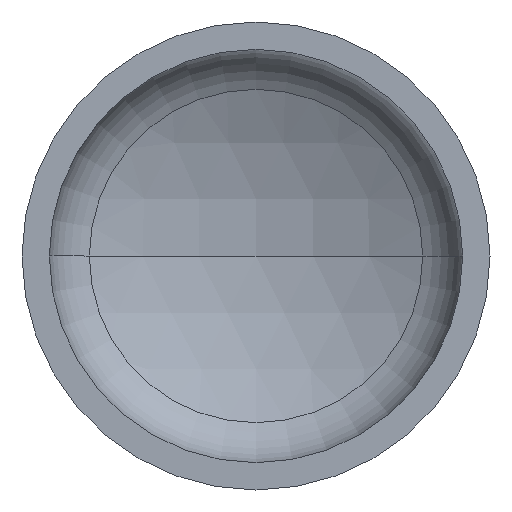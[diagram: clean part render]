
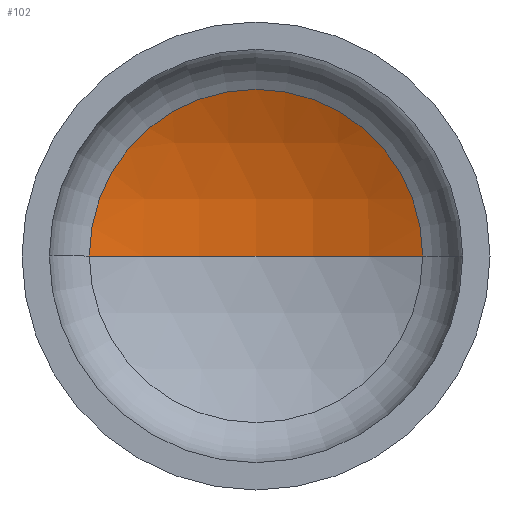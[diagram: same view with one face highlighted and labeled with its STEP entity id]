
A CAD part, front view. The second image highlights one B-rep face of the part: STEP entity #102.
In plain terms, the highlighted spherical face has radius 1040 mm.
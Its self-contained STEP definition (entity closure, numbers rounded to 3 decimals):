
#9 = EDGE_LOOP ( 'NONE', ( #23, #124, #97 ) ) ;
#23 = ORIENTED_EDGE ( 'NONE', *, *, #216, .F. ) ;
#26 = DIRECTION ( 'NONE',  ( 1., 0., 0. ) ) ;
#67 = VERTEX_POINT ( 'NONE', #247 ) ;
#92 = VERTEX_POINT ( 'NONE', #295 ) ;
#97 = ORIENTED_EDGE ( 'NONE', *, *, #211, .T. ) ;
#102 = ADVANCED_FACE ( 'NONE', ( #265 ), #380, .F. ) ;
#106 = VERTEX_POINT ( 'NONE', #336 ) ;
#124 = ORIENTED_EDGE ( 'NONE', *, *, #213, .T. ) ;
#126 = AXIS2_PLACEMENT_3D ( 'NONE', #214, #180, #201 ) ;
#131 = AXIS2_PLACEMENT_3D ( 'NONE', #385, #246, #181 ) ;
#138 = AXIS2_PLACEMENT_3D ( 'NONE', #144, #287, #26 ) ;
#144 = CARTESIAN_POINT ( 'NONE',  ( 0., 299.082, 0. ) ) ;
#156 = CIRCLE ( 'NONE', #138, 463.048 ) ;
#178 = AXIS2_PLACEMENT_3D ( 'NONE', #238, #240, #340 ) ;
#180 = DIRECTION ( 'NONE',  ( 0., 0., 1. ) ) ;
#181 = DIRECTION ( 'NONE',  ( -1., 0., 0. ) ) ;
#201 = DIRECTION ( 'NONE',  ( 1., 0., 0. ) ) ;
#211 = EDGE_CURVE ( 'NONE', #67, #106, #156, .T. ) ;
#213 = EDGE_CURVE ( 'NONE', #92, #67, #298, .T. ) ;
#214 = CARTESIAN_POINT ( 'NONE',  ( 0., -632.146, 0. ) ) ;
#216 = EDGE_CURVE ( 'NONE', #92, #106, #359, .T. ) ;
#238 = CARTESIAN_POINT ( 'NONE',  ( 0., -632.146, 0. ) ) ;
#240 = DIRECTION ( 'NONE',  ( 0., 0., -1. ) ) ;
#246 = DIRECTION ( 'NONE',  ( 0., 0., -1. ) ) ;
#247 = CARTESIAN_POINT ( 'NONE',  ( 463.048, 299.082, 0. ) ) ;
#265 = FACE_OUTER_BOUND ( 'NONE', #9, .T. ) ;
#287 = DIRECTION ( 'NONE',  ( 0., -1., 0. ) ) ;
#295 = CARTESIAN_POINT ( 'NONE',  ( 0., 407.854, 0. ) ) ;
#298 = CIRCLE ( 'NONE', #131, 1040. ) ;
#336 = CARTESIAN_POINT ( 'NONE',  ( -463.048, 299.082, 0. ) ) ;
#340 = DIRECTION ( 'NONE',  ( -1., 0., 0. ) ) ;
#359 = CIRCLE ( 'NONE', #126, 1040. ) ;
#380 = SPHERICAL_SURFACE ( 'NONE', #178, 1040. ) ;
#385 = CARTESIAN_POINT ( 'NONE',  ( 0., -632.146, 0. ) ) ;
